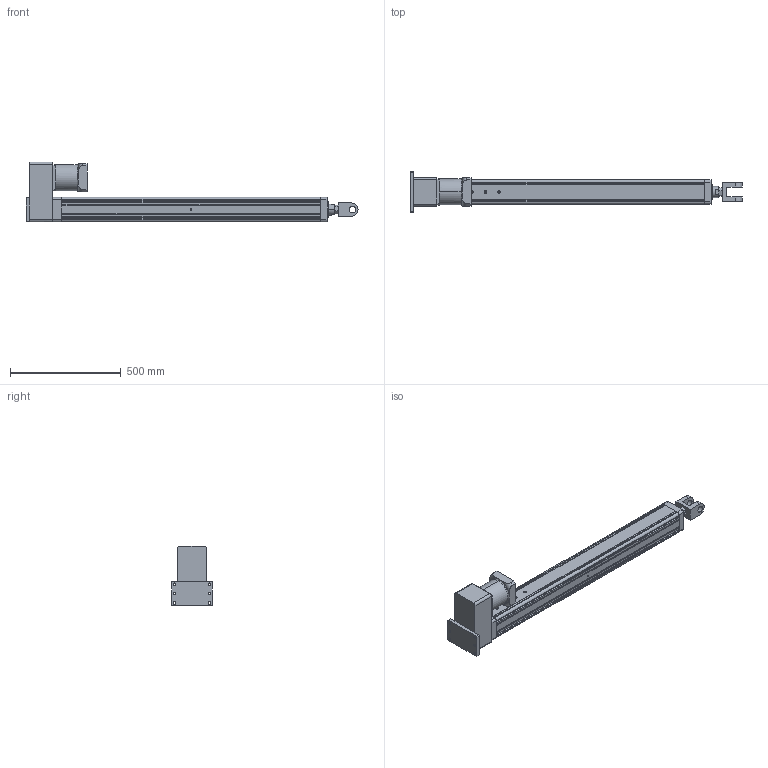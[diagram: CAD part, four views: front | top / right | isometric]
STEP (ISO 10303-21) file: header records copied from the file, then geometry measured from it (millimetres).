
FILE_DESCRIPTION (( 'STEP AP203' ), '1' );
FILE_NAME ('YRJ110-L1000-H4K4.STEP', '2020-01-06T01:44:57', ( 'User' ), ( 'China' ), 'SwSTEP 2.0', 'SolidWorks 2016', '' );
FILE_SCHEMA (( 'CONFIG_CONTROL_DESIGN' ));
Length unit declared in the file: millimetre
Products named in the file (8): 095-100俴最倰第; H5-110-1; 萇儂碟-110; K4-110; H3-110-2; H4-110; 120遺1500W珨撰熬厒儂; YRJ110-L1000-H4K4
Assembly tree (7 placements, depth 2):
  YRJ110-L1000-H4K4
    095-100俴最倰第
    H5-110-1
    萇儂碟-110
    K4-110
    H3-110-2
    H4-110
    120遺1500W珨撰熬厒儂
Bounding box: 1502 x 185 x 271 mm (x, y, z)
Volume: 11731704.9 mm3; surface area: 1461474.9 mm2
Topology: 7 solids, 7 shells, 340 faces, 919 edges, 589 vertices
Faces by surface type: plane 174, cylinder 128, cone 29, torus 5, bspline 4
Entity records: 11853 total; most frequent: CARTESIAN_POINT 2306, DIRECTION 1845, ORIENTED_EDGE 1806, EDGE_CURVE 903, AXIS2_PLACEMENT_3D 634, VERTEX_POINT 589, LINE 577, VECTOR 577
